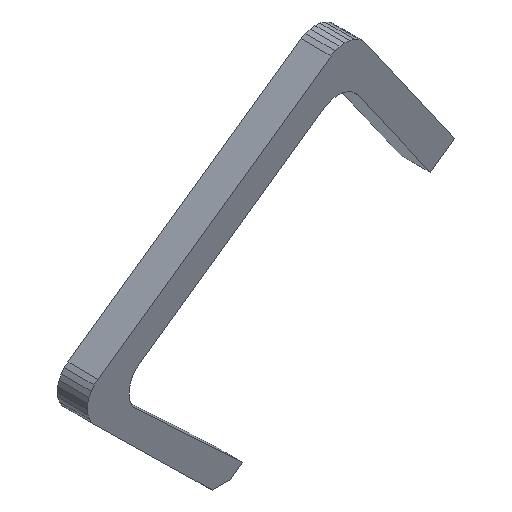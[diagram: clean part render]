
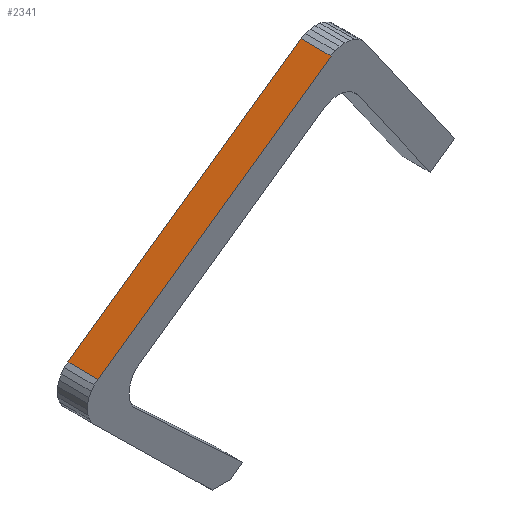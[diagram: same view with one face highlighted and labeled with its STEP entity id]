
A CAD part, isometric view. The second image highlights one B-rep face of the part: STEP entity #2341.
In plain terms, the highlighted planar face has unit normal (-0.574, 0, 0.819).
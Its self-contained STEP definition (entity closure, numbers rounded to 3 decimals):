
#72 = PLANE('',#73);
#73 = AXIS2_PLACEMENT_3D('',#74,#75,#76);
#74 = CARTESIAN_POINT('',(-215.772,-14.,158.063));
#75 = DIRECTION('',(-0.,-1.,-0.));
#76 = DIRECTION('',(0.,0.,-1.));
#126 = PLANE('',#127);
#127 = AXIS2_PLACEMENT_3D('',#128,#129,#130);
#128 = CARTESIAN_POINT('',(-215.772,-2.,158.063));
#129 = DIRECTION('',(-0.,-1.,-0.));
#130 = DIRECTION('',(0.,0.,-1.));
#2233 = PLANE('',#2234);
#2234 = AXIS2_PLACEMENT_3D('',#2235,#2236,#2237);
#2235 = CARTESIAN_POINT('',(-182.921,-2.,214.111));
#2236 = DIRECTION('',(0.49,0.,-0.872));
#2237 = DIRECTION('',(-0.872,0.,-0.49));
#2271 = VERTEX_POINT('',#2272);
#2272 = CARTESIAN_POINT('',(-184.638,-14.,213.146));
#2293 = EDGE_CURVE('',#2294,#2271,#2296,.T.);
#2294 = VERTEX_POINT('',#2295);
#2295 = CARTESIAN_POINT('',(-184.638,-2.,213.146));
#2296 = SURFACE_CURVE('',#2297,(#2301,#2308),.PCURVE_S1.);
#2297 = LINE('',#2298,#2299);
#2298 = CARTESIAN_POINT('',(-184.638,-2.,213.146));
#2299 = VECTOR('',#2300,1.);
#2300 = DIRECTION('',(0.,-1.,0.));
#2301 = PCURVE('',#2233,#2302);
#2302 = DEFINITIONAL_REPRESENTATION('',(#2303),#2307);
#2303 = LINE('',#2304,#2305);
#2304 = CARTESIAN_POINT('',(1.97,0.));
#2305 = VECTOR('',#2306,1.);
#2306 = DIRECTION('',(-0.,-1.));
#2307 = ( GEOMETRIC_REPRESENTATION_CONTEXT(2) 
PARAMETRIC_REPRESENTATION_CONTEXT() REPRESENTATION_CONTEXT('2D SPACE',''
  ) );
#2308 = PCURVE('',#2309,#2314);
#2309 = PLANE('',#2310);
#2310 = AXIS2_PLACEMENT_3D('',#2311,#2312,#2313);
#2311 = CARTESIAN_POINT('',(-184.638,-2.,213.146));
#2312 = DIRECTION('',(0.574,0.,-0.819));
#2313 = DIRECTION('',(-0.819,0.,-0.574));
#2314 = DEFINITIONAL_REPRESENTATION('',(#2315),#2319);
#2315 = LINE('',#2316,#2317);
#2316 = CARTESIAN_POINT('',(0.,0.));
#2317 = VECTOR('',#2318,1.);
#2318 = DIRECTION('',(-0.,-1.));
#2319 = ( GEOMETRIC_REPRESENTATION_CONTEXT(2) 
PARAMETRIC_REPRESENTATION_CONTEXT() REPRESENTATION_CONTEXT('2D SPACE',''
  ) );
#2341 = ADVANCED_FACE('',(#2342),#2309,.F.);
#2342 = FACE_BOUND('',#2343,.F.);
#2343 = EDGE_LOOP('',(#2344,#2345,#2368,#2396));
#2344 = ORIENTED_EDGE('',*,*,#2293,.T.);
#2345 = ORIENTED_EDGE('',*,*,#2346,.T.);
#2346 = EDGE_CURVE('',#2271,#2347,#2349,.T.);
#2347 = VERTEX_POINT('',#2348);
#2348 = CARTESIAN_POINT('',(-278.021,-14.,147.758));
#2349 = SURFACE_CURVE('',#2350,(#2354,#2361),.PCURVE_S1.);
#2350 = LINE('',#2351,#2352);
#2351 = CARTESIAN_POINT('',(-184.638,-14.,213.146));
#2352 = VECTOR('',#2353,1.);
#2353 = DIRECTION('',(-0.819,0.,-0.574));
#2354 = PCURVE('',#2309,#2355);
#2355 = DEFINITIONAL_REPRESENTATION('',(#2356),#2360);
#2356 = LINE('',#2357,#2358);
#2357 = CARTESIAN_POINT('',(-0.,-12.));
#2358 = VECTOR('',#2359,1.);
#2359 = DIRECTION('',(1.,0.));
#2360 = ( GEOMETRIC_REPRESENTATION_CONTEXT(2) 
PARAMETRIC_REPRESENTATION_CONTEXT() REPRESENTATION_CONTEXT('2D SPACE',''
  ) );
#2361 = PCURVE('',#72,#2362);
#2362 = DEFINITIONAL_REPRESENTATION('',(#2363),#2367);
#2363 = LINE('',#2364,#2365);
#2364 = CARTESIAN_POINT('',(-55.083,31.134));
#2365 = VECTOR('',#2366,1.);
#2366 = DIRECTION('',(0.574,-0.819));
#2367 = ( GEOMETRIC_REPRESENTATION_CONTEXT(2) 
PARAMETRIC_REPRESENTATION_CONTEXT() REPRESENTATION_CONTEXT('2D SPACE',''
  ) );
#2368 = ORIENTED_EDGE('',*,*,#2369,.F.);
#2369 = EDGE_CURVE('',#2370,#2347,#2372,.T.);
#2370 = VERTEX_POINT('',#2371);
#2371 = CARTESIAN_POINT('',(-278.021,-2.,147.758));
#2372 = SURFACE_CURVE('',#2373,(#2377,#2384),.PCURVE_S1.);
#2373 = LINE('',#2374,#2375);
#2374 = CARTESIAN_POINT('',(-278.021,-2.,147.758));
#2375 = VECTOR('',#2376,1.);
#2376 = DIRECTION('',(0.,-1.,0.));
#2377 = PCURVE('',#2309,#2378);
#2378 = DEFINITIONAL_REPRESENTATION('',(#2379),#2383);
#2379 = LINE('',#2380,#2381);
#2380 = CARTESIAN_POINT('',(114.,0.));
#2381 = VECTOR('',#2382,1.);
#2382 = DIRECTION('',(-0.,-1.));
#2383 = ( GEOMETRIC_REPRESENTATION_CONTEXT(2) 
PARAMETRIC_REPRESENTATION_CONTEXT() REPRESENTATION_CONTEXT('2D SPACE',''
  ) );
#2384 = PCURVE('',#2385,#2390);
#2385 = PLANE('',#2386);
#2386 = AXIS2_PLACEMENT_3D('',#2387,#2388,#2389);
#2387 = CARTESIAN_POINT('',(-278.021,-2.,147.758));
#2388 = DIRECTION('',(0.651,0.,-0.759));
#2389 = DIRECTION('',(-0.759,0.,-0.651));
#2390 = DEFINITIONAL_REPRESENTATION('',(#2391),#2395);
#2391 = LINE('',#2392,#2393);
#2392 = CARTESIAN_POINT('',(0.,0.));
#2393 = VECTOR('',#2394,1.);
#2394 = DIRECTION('',(-0.,-1.));
#2395 = ( GEOMETRIC_REPRESENTATION_CONTEXT(2) 
PARAMETRIC_REPRESENTATION_CONTEXT() REPRESENTATION_CONTEXT('2D SPACE',''
  ) );
#2396 = ORIENTED_EDGE('',*,*,#2397,.F.);
#2397 = EDGE_CURVE('',#2294,#2370,#2398,.T.);
#2398 = SURFACE_CURVE('',#2399,(#2403,#2410),.PCURVE_S1.);
#2399 = LINE('',#2400,#2401);
#2400 = CARTESIAN_POINT('',(-184.638,-2.,213.146));
#2401 = VECTOR('',#2402,1.);
#2402 = DIRECTION('',(-0.819,0.,-0.574));
#2403 = PCURVE('',#2309,#2404);
#2404 = DEFINITIONAL_REPRESENTATION('',(#2405),#2409);
#2405 = LINE('',#2406,#2407);
#2406 = CARTESIAN_POINT('',(0.,0.));
#2407 = VECTOR('',#2408,1.);
#2408 = DIRECTION('',(1.,0.));
#2409 = ( GEOMETRIC_REPRESENTATION_CONTEXT(2) 
PARAMETRIC_REPRESENTATION_CONTEXT() REPRESENTATION_CONTEXT('2D SPACE',''
  ) );
#2410 = PCURVE('',#126,#2411);
#2411 = DEFINITIONAL_REPRESENTATION('',(#2412),#2416);
#2412 = LINE('',#2413,#2414);
#2413 = CARTESIAN_POINT('',(-55.083,31.134));
#2414 = VECTOR('',#2415,1.);
#2415 = DIRECTION('',(0.574,-0.819));
#2416 = ( GEOMETRIC_REPRESENTATION_CONTEXT(2) 
PARAMETRIC_REPRESENTATION_CONTEXT() REPRESENTATION_CONTEXT('2D SPACE',''
  ) );
